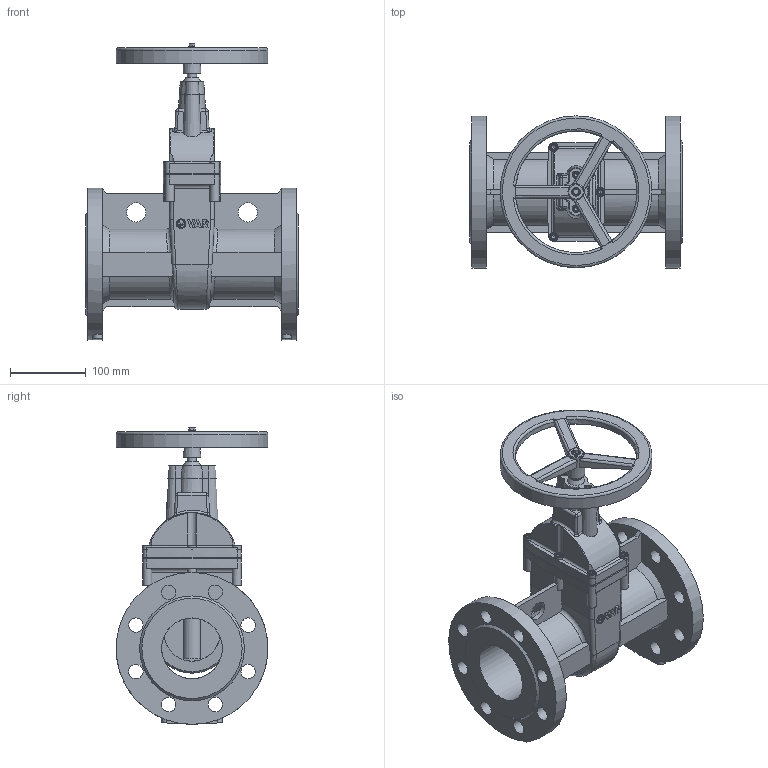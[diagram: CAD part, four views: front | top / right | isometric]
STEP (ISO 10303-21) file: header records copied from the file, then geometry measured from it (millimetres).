
FILE_DESCRIPTION(('STEP AP242'), '1');
FILE_NAME('青溻桄赅', '', ('UNSPECIFIED'), ('UNSPECIFIED'), 'C3D Converter', 'C3D Toolkit', '');
FILE_SCHEMA(('AP242_MANAGED_MODEL_BASED_3D_ENGINEERING_MIM_LF { 1 0 10303 442 1 1 4 }'));
Length unit declared in the file: millimetre
Assembly tree (17 placements, depth 2):
  (unnamed)
    (unnamed)
    (unnamed)
    (unnamed)
    (unnamed)
    (unnamed)  x2
    (unnamed)
    (unnamed)
    (unnamed)  x6
    (unnamed)  x2
    (unnamed)
Bounding box: 280 x 200 x 390.6 mm (x, y, z)
Volume: 2478972.7 mm3; surface area: 601322.2 mm2
Topology: 20 solids, 20 shells, 957 faces, 2396 edges, 1526 vertices
Faces by surface type: plane 460, cylinder 196, extrusion 153, cone 69, bspline 58, torus 21
Full cylindrical faces by diameter (mm): 5 x11, 6 x30, 10 x8, 10.2 x8, 12 x7, 12.69 x1, 19 x16, 24.667 x3, 25.25 x2, 73.667 x2, 80 x4, 100.267 x4, 105.333 x1, 160 x1, 170 x1, 190 x1, 200 x3
Entity records: 41135 total; most frequent: CARTESIAN_POINT 19835, ORIENTED_EDGE 3900, DIRECTION 3070, EDGE_CURVE 1950, VERTEX_POINT 1331, EDGE_LOOP 1071, VECTOR 1056, AXIS2_PLACEMENT_3D 1007
